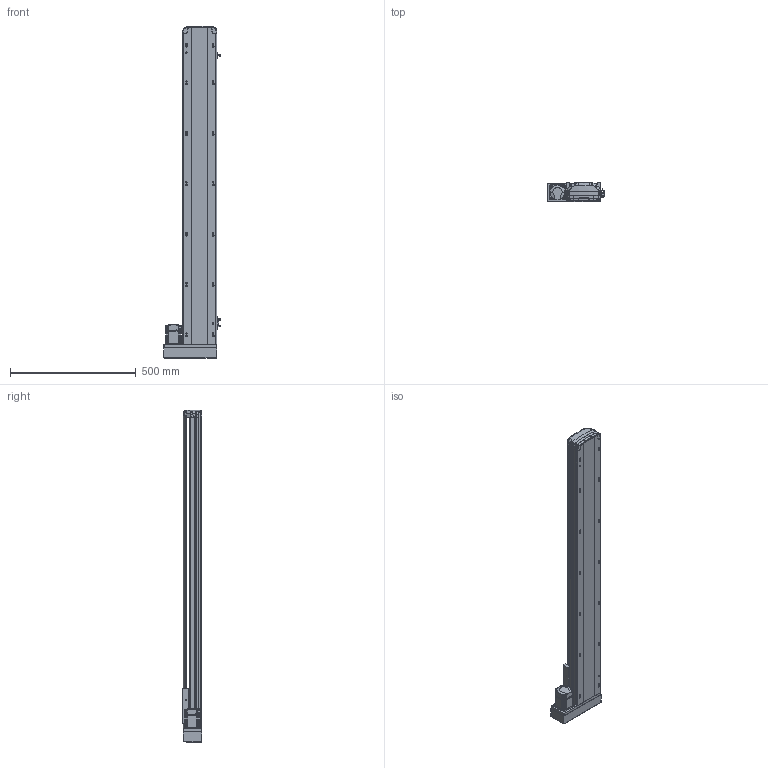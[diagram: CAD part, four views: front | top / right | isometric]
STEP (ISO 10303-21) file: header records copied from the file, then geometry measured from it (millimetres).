
FILE_DESCRIPTION (( 'STEP AP214' ), '1' );
FILE_NAME ('RTH14-XX-1050-L-M20-C4.STEP', '2025-10-25T02:42:34', ( 'Microsoft' ), ( 'Microsoft' ), 'SwSTEP 2.0', 'SolidWorks 2018', '' );
FILE_SCHEMA (( 'AUTOMOTIVE_DESIGN' ));
Length unit declared in the file: millimetre
Products named in the file (10): N_RTH14-GY-001P^RTH14-XX-XX-L-M20-C4; N_RTH14-M-011P菁釱^RTH14-XX-XX-L-M20-C4; N_RTH13-L-012感应片（外置）^RTH14-XX-XX-L-M20-C4; N_MSMD022P1AA_200W^RTH14-XX-XX-L-M20-C4; N_RTH14-M-007P奻裔^RTH14-XX-XX-L-M20-C4; N_OMRON EE-SX672 传感器^RTH14-XX-XX-L-M20-C4; N_RTH14-R-004-SFSR16賑釱^RTH14-XX-XX-L-M20-C4; N_RTH13-L-008-P20 萇儂啣酘蛌殏^RTH14-XX-XX-L-M20-C4; RTH14-XX-1050-L-M20-C4; N_RTH13-L-018 裔赽^RTH14-XX-XX-L-M20-C4
Assembly tree (11 placements, depth 2):
  RTH14-XX-1050-L-M20-C4
    N_RTH14-M-011P菁釱^RTH14-XX-XX-L-M20-C4
    N_RTH14-M-007P奻裔^RTH14-XX-XX-L-M20-C4
    N_MSMD022P1AA_200W^RTH14-XX-XX-L-M20-C4
    N_RTH13-L-008-P20 萇儂啣酘蛌殏^RTH14-XX-XX-L-M20-C4
    N_RTH13-L-018 裔赽^RTH14-XX-XX-L-M20-C4
    N_RTH13-L-012感应片（外置）^RTH14-XX-XX-L-M20-C4
    N_OMRON EE-SX672 传感器^RTH14-XX-XX-L-M20-C4  x3
    N_RTH14-GY-001P^RTH14-XX-XX-L-M20-C4
    N_RTH14-R-004-SFSR16賑釱^RTH14-XX-XX-L-M20-C4
Bounding box: 224 x 78.03 x 1317.49 mm (x, y, z)
Volume: 5646605.5 mm3; surface area: 1299741 mm2
Topology: 11 solids, 11 shells, 1896 faces, 5303 edges, 3474 vertices
Faces by surface type: plane 993, cylinder 509, bspline 345, cone 45, torus 4
Entity records: 58081 total; most frequent: CARTESIAN_POINT 23265, ORIENTED_EDGE 7674, DIRECTION 6206, EDGE_CURVE 3837, VERTEX_POINT 2510, VECTOR 2182, LINE 2182, AXIS2_PLACEMENT_3D 2012
